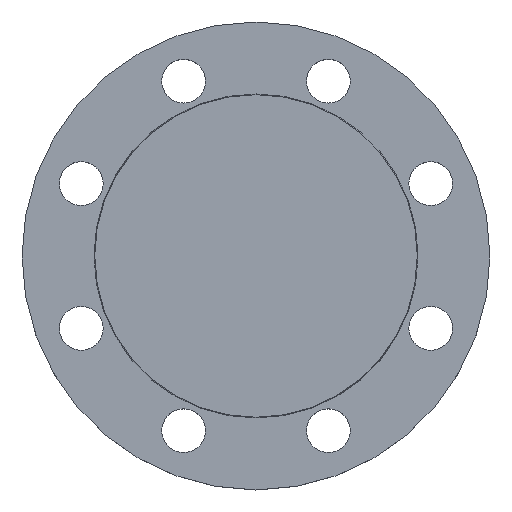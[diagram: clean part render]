
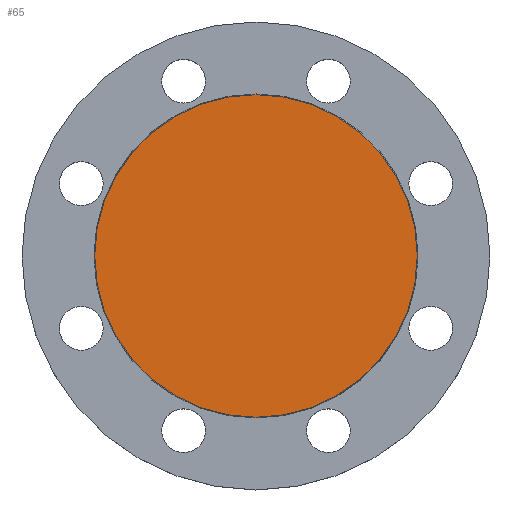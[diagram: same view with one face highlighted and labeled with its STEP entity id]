
A CAD part, top view. The second image highlights one B-rep face of the part: STEP entity #65.
In plain terms, the highlighted planar face has unit normal (0, 0, 1).
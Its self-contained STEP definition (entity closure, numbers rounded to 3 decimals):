
#33 = AXIS2_PLACEMENT_3D ( 'NONE', #605, #924, #186 ) ;
#65 = ADVANCED_FACE ( 'NONE', ( #182 ), #515, .T. ) ;
#81 = EDGE_LOOP ( 'NONE', ( #719, #1008 ) ) ;
#98 = DIRECTION ( 'NONE',  ( 0., 0., 1. ) ) ;
#159 = CARTESIAN_POINT ( 'NONE',  ( 0., 0., 0. ) ) ;
#182 = FACE_OUTER_BOUND ( 'NONE', #81, .T. ) ;
#186 = DIRECTION ( 'NONE',  ( -1., 0., 0. ) ) ;
#187 = AXIS2_PLACEMENT_3D ( 'NONE', #839, #98, #429 ) ;
#284 = CIRCLE ( 'NONE', #33, 81. ) ;
#285 = VERTEX_POINT ( 'NONE', #481 ) ;
#357 = EDGE_CURVE ( 'NONE', #618, #285, #955, .T. ) ;
#429 = DIRECTION ( 'NONE',  ( 1., 0., 0. ) ) ;
#481 = CARTESIAN_POINT ( 'NONE',  ( -81., 0., 0. ) ) ;
#489 = DIRECTION ( 'NONE',  ( 0., 0., -1. ) ) ;
#515 = PLANE ( 'NONE',  #187 ) ;
#562 = EDGE_CURVE ( 'NONE', #285, #618, #284, .T. ) ;
#605 = CARTESIAN_POINT ( 'NONE',  ( 0., 0., 0. ) ) ;
#618 = VERTEX_POINT ( 'NONE', #625 ) ;
#625 = CARTESIAN_POINT ( 'NONE',  ( 81., 0., 0. ) ) ;
#719 = ORIENTED_EDGE ( 'NONE', *, *, #562, .F. ) ;
#815 = DIRECTION ( 'NONE',  ( -1., 0., 0. ) ) ;
#839 = CARTESIAN_POINT ( 'NONE',  ( 0., 0., 0. ) ) ;
#924 = DIRECTION ( 'NONE',  ( 0., 0., -1. ) ) ;
#955 = CIRCLE ( 'NONE', #1043, 81. ) ;
#1008 = ORIENTED_EDGE ( 'NONE', *, *, #357, .F. ) ;
#1043 = AXIS2_PLACEMENT_3D ( 'NONE', #159, #489, #815 ) ;
